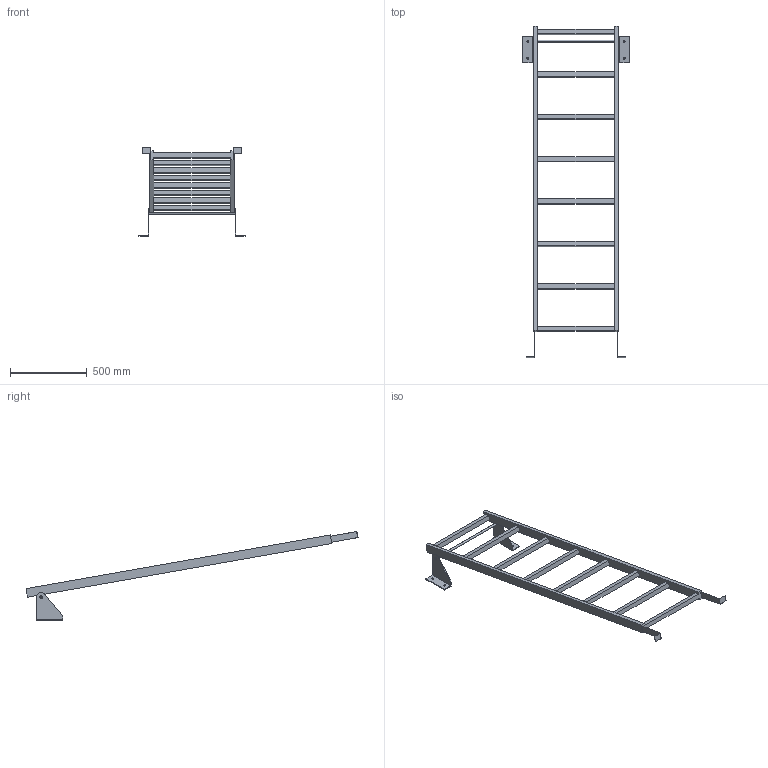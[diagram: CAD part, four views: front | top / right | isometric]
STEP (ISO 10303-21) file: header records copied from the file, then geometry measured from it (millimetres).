
FILE_DESCRIPTION((''),'2;1');
FILE_NAME('52309760','2024-10-17T08:57:27',('wep'),('HUBER SE'),'CREO PARAMETRIC BY PTC INC, 2022162','CREO PARAMETRIC BY PTC INC, 2022162','');
FILE_SCHEMA(('AUTOMOTIVE_DESIGN { 1 0 10303 214 1 1 1 1 }'));
Length unit declared in the file: millimetre
Products named in the file (1): 52309760
Bounding box: 690 x 2159.24 x 578.17 mm (x, y, z)
Volume: 9833302.1 mm3; surface area: 1328758.7 mm2
Topology: 4 solids, 4 shells, 90 faces, 240 edges, 160 vertices
Faces by surface type: plane 74, cylinder 16
Entity records: 3391 total; most frequent: CARTESIAN_POINT 492, ORIENTED_EDGE 480, DIRECTION 452, EDGE_CURVE 240, VECTOR 208, LINE 208, VERTEX_POINT 160, AXIS2_PLACEMENT_3D 122
